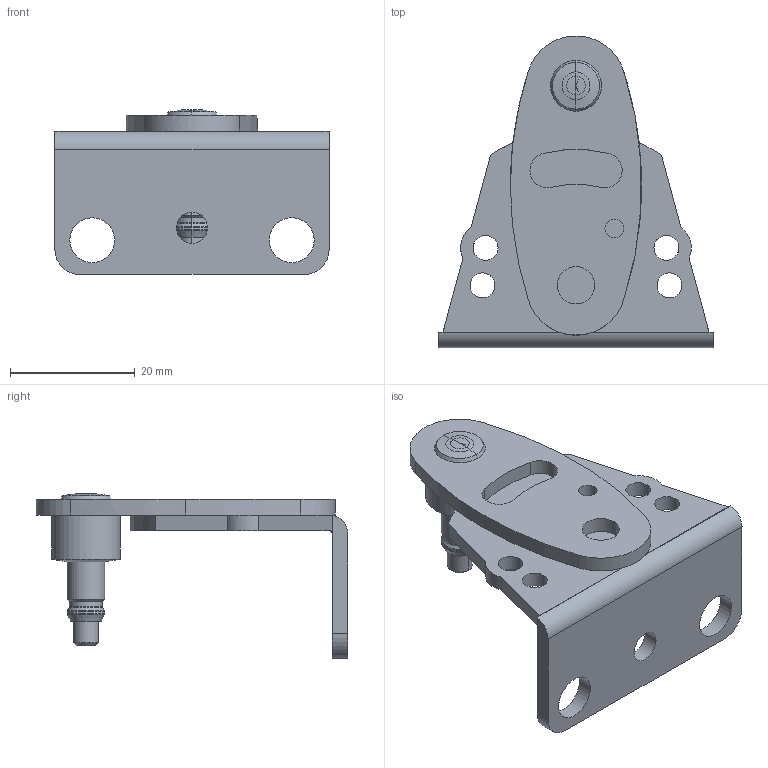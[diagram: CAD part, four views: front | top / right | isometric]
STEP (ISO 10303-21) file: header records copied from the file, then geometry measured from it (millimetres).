
FILE_DESCRIPTION (( 'STEP AP203' ), '1' );
FILE_NAME ('Anschraubwinkel_Kinvaro_F-20_D2879011000_D2.87.2304.1.Türwinkel~0.step', '2012-05-04T06:18:32', ( 'admin' ), ( 'Hewlett-Packard Company' ), 'SwSTEP 2.0', 'SolidWorks 2011', '' );
FILE_SCHEMA (( 'CONFIG_CONTROL_DESIGN' ));
Length unit declared in the file: millimetre
Products named in the file (1): Anschraubwinkel_Kinvaro_F-20_D2879011000_D2.87.2304.1.Türwinkel~0
Bounding box: 44 x 49.97 x 26.45 mm (x, y, z)
Volume: 7604.1 mm3; surface area: 5932.9 mm2
Topology: 1 solids, 1 shells, 93 faces, 222 edges, 135 vertices
Faces by surface type: cylinder 46, plane 21, cone 20, torus 6
Entity records: 2789 total; most frequent: DIRECTION 504, CARTESIAN_POINT 491, ORIENTED_EDGE 440, EDGE_CURVE 220, AXIS2_PLACEMENT_3D 204, VERTEX_POINT 135, EDGE_LOOP 113, CIRCLE 110
